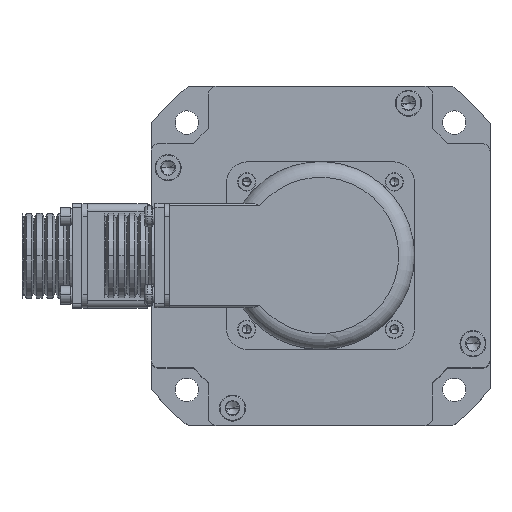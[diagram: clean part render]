
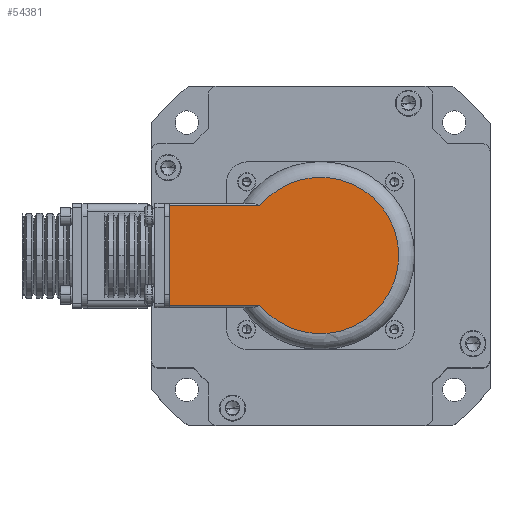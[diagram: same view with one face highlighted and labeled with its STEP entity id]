
A CAD part, top view. The second image highlights one B-rep face of the part: STEP entity #54381.
In plain terms, the highlighted planar face has unit normal (0, 0, 1) as drawn and (1, 0, 0) by its records, which use the part's own axes.
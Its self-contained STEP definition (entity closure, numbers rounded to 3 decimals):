
#52845=DIRECTION('',(0.,1.,0.));
#52846=VECTOR('',#52845,34.784);
#52847=CARTESIAN_POINT('',(43.,23.216,-19.));
#52848=LINE('',#52847,#52846);
#52853=CARTESIAN_POINT('',(43.,0.,0.));
#52854=DIRECTION('',(-1.,0.,0.));
#52855=DIRECTION('',(0.,0.774,-0.633));
#52856=AXIS2_PLACEMENT_3D('',#52853,#52854,#52855);
#52858=CARTESIAN_POINT('',(43.,0.,0.));
#52859=DIRECTION('',(-1.,0.,0.));
#52860=DIRECTION('',(0.,-1.,0.001));
#52861=AXIS2_PLACEMENT_3D('',#52858,#52859,#52860);
#52863=DIRECTION('',(0.,-1.,0.));
#52864=VECTOR('',#52863,34.784);
#52865=CARTESIAN_POINT('',(43.,58.,19.));
#52866=LINE('',#52865,#52864);
#52903=DIRECTION('',(0.,0.,1.));
#52904=VECTOR('',#52903,38.);
#52905=CARTESIAN_POINT('',(43.,58.,-19.));
#52906=LINE('',#52905,#52904);
#53901=CARTESIAN_POINT('',(43.,23.216,-19.));
#53902=CARTESIAN_POINT('',(43.,58.,-19.));
#53903=VERTEX_POINT('',#53901);
#53904=VERTEX_POINT('',#53902);
#53905=CARTESIAN_POINT('',(43.,58.,19.));
#53906=CARTESIAN_POINT('',(43.,23.216,19.));
#53907=VERTEX_POINT('',#53905);
#53908=VERTEX_POINT('',#53906);
#53909=CARTESIAN_POINT('',(43.,-30.,0.033));
#53910=VERTEX_POINT('',#53909);
#54365=CARTESIAN_POINT('',(43.,0.,0.));
#54366=DIRECTION('',(1.,0.,0.));
#54367=DIRECTION('',(0.,-1.,0.));
#54368=AXIS2_PLACEMENT_3D('',#54365,#54366,#54367);
#54369=PLANE('',#54368);
#54371=ORIENTED_EDGE('',*,*,#54370,.F.);
#54373=ORIENTED_EDGE('',*,*,#54372,.F.);
#54374=ORIENTED_EDGE('',*,*,#54348,.F.);
#54376=ORIENTED_EDGE('',*,*,#54375,.T.);
#54378=ORIENTED_EDGE('',*,*,#54377,.T.);
#54379=EDGE_LOOP('',(#54371,#54373,#54374,#54376,#54378));
#54380=FACE_OUTER_BOUND('',#54379,.F.);
#54381=ADVANCED_FACE('',(#54380),#54369,.T.);
#52857=CIRCLE('',#52856,30.);
#52862=CIRCLE('',#52861,30.);
#54348=EDGE_CURVE('',#53903,#53904,#52848,.T.);
#54370=EDGE_CURVE('',#53907,#53908,#52866,.T.);
#54372=EDGE_CURVE('',#53904,#53907,#52906,.T.);
#54375=EDGE_CURVE('',#53903,#53910,#52857,.T.);
#54377=EDGE_CURVE('',#53910,#53908,#52862,.T.);
